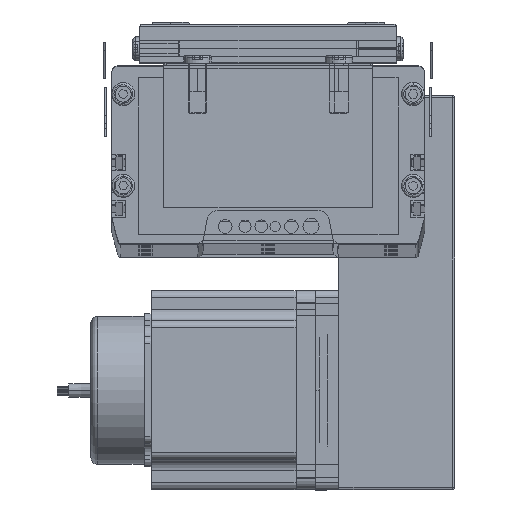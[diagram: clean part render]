
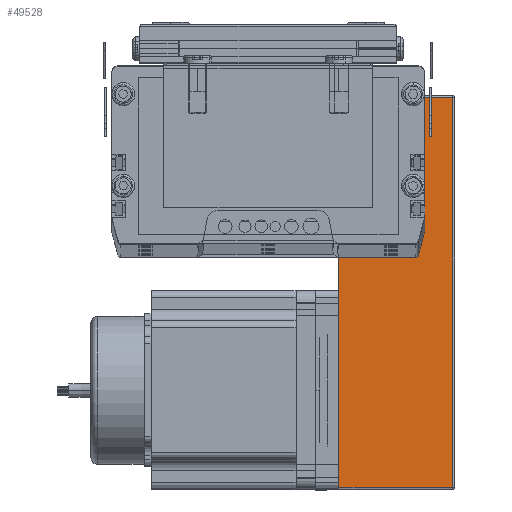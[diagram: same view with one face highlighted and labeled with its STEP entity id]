
A CAD part, top view. The second image highlights one B-rep face of the part: STEP entity #49528.
In plain terms, the highlighted planar face has unit normal (0, 0, 1) as drawn and (0, 1, 0) by its records, which use the part's own axes.
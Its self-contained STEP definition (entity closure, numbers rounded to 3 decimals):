
#6323 = CARTESIAN_POINT ( 'NONE',  ( 74.961, 70., 0. ) ) ;
#6326 = DIRECTION ( 'NONE',  ( 1., 0., 0. ) ) ;
#6327 = VECTOR ( 'NONE', #6326, 1000. ) ;
#6328 = CARTESIAN_POINT ( 'NONE',  ( 0., 70., 0. ) ) ;
#6329 = LINE ( 'NONE', #6328, #6327 ) ;
#6378 = CARTESIAN_POINT ( 'NONE',  ( 80.439, 70., 0. ) ) ;
#6484 = CARTESIAN_POINT ( 'NONE',  ( 5.418, 70., 0. ) ) ;
#6538 = LINE ( 'NONE', #6539, #6672 ) ;
#6539 = CARTESIAN_POINT ( 'NONE',  ( 0., 70., 0. ) ) ;
#6541 = DIRECTION ( 'NONE',  ( 1., 0., 0. ) ) ;
#6542 = VECTOR ( 'NONE', #6541, 1000. ) ;
#6548 = DIRECTION ( 'NONE',  ( 0., 0., -1. ) ) ;
#6549 = LINE ( 'NONE', #6552, #6542 ) ;
#6552 = CARTESIAN_POINT ( 'NONE',  ( 0., 70., 0. ) ) ;
#6554 = FACE_OUTER_BOUND ( 'NONE', #49542, .T. ) ;
#6555 = PLANE ( 'NONE',  #6694 ) ;
#6562 = DIRECTION ( 'NONE',  ( 0., -1., 0. ) ) ;
#6563 = CARTESIAN_POINT ( 'NONE',  ( 0., 70., 50. ) ) ;
#6565 = DIRECTION ( 'NONE',  ( 1., 0., 0. ) ) ;
#6566 = VECTOR ( 'NONE', #6565, 1000. ) ;
#6567 = CARTESIAN_POINT ( 'NONE',  ( 0., 70., 0. ) ) ;
#6568 = LINE ( 'NONE', #6567, #6566 ) ;
#6574 = CARTESIAN_POINT ( 'NONE',  ( 10.902, 70., 0. ) ) ;
#6669 = DIRECTION ( 'NONE',  ( 1., 0., 0. ) ) ;
#6672 = VECTOR ( 'NONE', #6669, 1000. ) ;
#6676 = CARTESIAN_POINT ( 'NONE',  ( 1., 70., 49. ) ) ;
#6677 = CARTESIAN_POINT ( 'NONE',  ( 1., 70., 0. ) ) ;
#6694 = AXIS2_PLACEMENT_3D ( 'NONE', #6563, #6562, #6548 ) ;
#6717 = CARTESIAN_POINT ( 'NONE',  ( 85.9, 70., 0. ) ) ;
#6773 = VECTOR ( 'NONE', #6931, 1000. ) ;
#6804 = DIRECTION ( 'NONE',  ( 0., 0., 1. ) ) ;
#6805 = VECTOR ( 'NONE', #6804, 1000. ) ;
#6806 = CARTESIAN_POINT ( 'NONE',  ( 1., 70., 50. ) ) ;
#6807 = LINE ( 'NONE', #6806, #6805 ) ;
#6828 = DIRECTION ( 'NONE',  ( 1., 0., 0. ) ) ;
#6829 = VECTOR ( 'NONE', #6828, 1000. ) ;
#6841 = CARTESIAN_POINT ( 'NONE',  ( 0., 70., 0. ) ) ;
#6842 = LINE ( 'NONE', #6841, #6829 ) ;
#6863 = CARTESIAN_POINT ( 'NONE',  ( 169., 70., 49. ) ) ;
#6931 = DIRECTION ( 'NONE',  ( -1., 0., 0. ) ) ;
#6932 = CARTESIAN_POINT ( 'NONE',  ( 0., 70., 0. ) ) ;
#6933 = LINE ( 'NONE', #6932, #6773 ) ;
#6938 = CARTESIAN_POINT ( 'NONE',  ( 169., 70., 0. ) ) ;
#7376 = DIRECTION ( 'NONE',  ( 1., 0., 0. ) ) ;
#7380 = DIRECTION ( 'NONE',  ( 0., 0., -1. ) ) ;
#7381 = VECTOR ( 'NONE', #7380, 1000. ) ;
#7382 = CARTESIAN_POINT ( 'NONE',  ( 169., 70., 50. ) ) ;
#7385 = LINE ( 'NONE', #7382, #7381 ) ;
#7388 = VECTOR ( 'NONE', #7376, 1000. ) ;
#7389 = CARTESIAN_POINT ( 'NONE',  ( 0., 70., 49. ) ) ;
#7390 = LINE ( 'NONE', #7389, #7388 ) ;
#49390 = ORIENTED_EDGE ( 'NONE', *, *, #49534, .F. ) ;
#49394 = EDGE_CURVE ( 'NONE', #49395, #49647, #6329, .T. ) ;
#49395 = VERTEX_POINT ( 'NONE', #6378 ) ;
#49399 = VERTEX_POINT ( 'NONE', #6323 ) ;
#49473 = ORIENTED_EDGE ( 'NONE', *, *, #49622, .T. ) ;
#49476 = ORIENTED_EDGE ( 'NONE', *, *, #49530, .F. ) ;
#49477 = VERTEX_POINT ( 'NONE', #6677 ) ;
#49478 = ORIENTED_EDGE ( 'NONE', *, *, #49887, .T. ) ;
#49487 = VERTEX_POINT ( 'NONE', #6676 ) ;
#49501 = VERTEX_POINT ( 'NONE', #6484 ) ;
#49526 = ORIENTED_EDGE ( 'NONE', *, *, #49394, .F. ) ;
#49528 = ADVANCED_FACE ( 'NONE', ( #6554 ), #6555, .F. ) ;
#49530 = EDGE_CURVE ( 'NONE', #49477, #49501, #6549, .T. ) ;
#49531 = ORIENTED_EDGE ( 'NONE', *, *, #49625, .T. ) ;
#49533 = ORIENTED_EDGE ( 'NONE', *, *, #49611, .F. ) ;
#49534 = EDGE_CURVE ( 'NONE', #49555, #49399, #6538, .T. ) ;
#49541 = ORIENTED_EDGE ( 'NONE', *, *, #49552, .F. ) ;
#49542 = EDGE_LOOP ( 'NONE', ( #49531, #49526, #49533, #49390, #49541, #49476, #49473, #49478, #49882 ) ) ;
#49552 = EDGE_CURVE ( 'NONE', #49501, #49555, #6568, .T. ) ;
#49555 = VERTEX_POINT ( 'NONE', #6574 ) ;
#49611 = EDGE_CURVE ( 'NONE', #49399, #49395, #6842, .T. ) ;
#49622 = EDGE_CURVE ( 'NONE', #49477, #49487, #6807, .T. ) ;
#49625 = EDGE_CURVE ( 'NONE', #49628, #49647, #6933, .T. ) ;
#49628 = VERTEX_POINT ( 'NONE', #6938 ) ;
#49647 = VERTEX_POINT ( 'NONE', #6717 ) ;
#49698 = VERTEX_POINT ( 'NONE', #6863 ) ;
#49882 = ORIENTED_EDGE ( 'NONE', *, *, #49883, .T. ) ;
#49883 = EDGE_CURVE ( 'NONE', #49698, #49628, #7385, .T. ) ;
#49887 = EDGE_CURVE ( 'NONE', #49487, #49698, #7390, .T. ) ;
